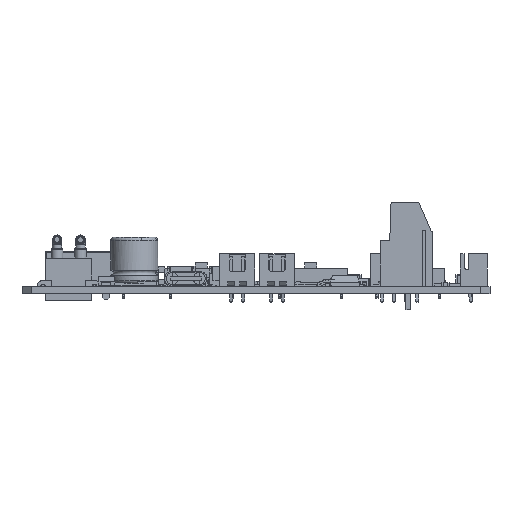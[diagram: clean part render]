
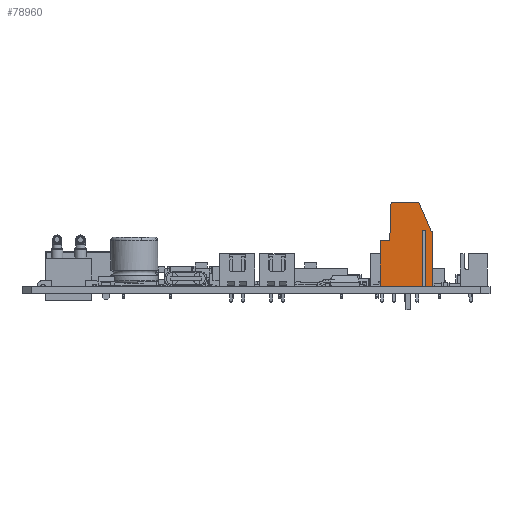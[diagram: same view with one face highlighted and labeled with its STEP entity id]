
A CAD part, front view. The second image highlights one B-rep face of the part: STEP entity #78960.
In plain terms, the highlighted planar face has unit normal (0, -1, 0) as drawn and (-1, 0, 0) by its records, which use the part's own axes.
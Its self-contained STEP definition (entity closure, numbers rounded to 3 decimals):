
#78792 = EDGE_CURVE('',#78793,#78795,#78797,.T.);
#78793 = VERTEX_POINT('',#78794);
#78794 = CARTESIAN_POINT('',(-2.54,-5.283,0.));
#78795 = VERTEX_POINT('',#78796);
#78796 = CARTESIAN_POINT('',(-2.54,-3.562,0.));
#78797 = LINE('',#78798,#78799);
#78798 = CARTESIAN_POINT('',(-2.54,-5.283,0.));
#78799 = VECTOR('',#78800,1.);
#78800 = DIRECTION('',(0.,1.,0.));
#78851 = VERTEX_POINT('',#78852);
#78852 = CARTESIAN_POINT('',(-2.54,5.917,0.));
#78858 = EDGE_CURVE('',#78859,#78851,#78861,.T.);
#78859 = VERTEX_POINT('',#78860);
#78860 = CARTESIAN_POINT('',(-2.54,-3.205,0.));
#78861 = LINE('',#78862,#78863);
#78862 = CARTESIAN_POINT('',(-2.54,-5.283,0.));
#78863 = VECTOR('',#78864,1.);
#78864 = DIRECTION('',(0.,1.,0.));
#78960 = ADVANCED_FACE('',(#78961),#79041,.F.);
#78961 = FACE_BOUND('',#78962,.F.);
#78962 = EDGE_LOOP('',(#78963,#78973,#78981,#78987,#78988,#78996,#79004,
    #79010,#79011,#79019,#79027,#79035));
#78963 = ORIENTED_EDGE('',*,*,#78964,.T.);
#78964 = EDGE_CURVE('',#78965,#78967,#78969,.T.);
#78965 = VERTEX_POINT('',#78966);
#78966 = CARTESIAN_POINT('',(-2.54,-2.283,18.));
#78967 = VERTEX_POINT('',#78968);
#78968 = CARTESIAN_POINT('',(-2.54,-4.983,11.8));
#78969 = LINE('',#78970,#78971);
#78970 = CARTESIAN_POINT('',(-2.54,-2.283,18.));
#78971 = VECTOR('',#78972,1.);
#78972 = DIRECTION('',(0.,-0.399,-0.917));
#78973 = ORIENTED_EDGE('',*,*,#78974,.T.);
#78974 = EDGE_CURVE('',#78967,#78975,#78977,.T.);
#78975 = VERTEX_POINT('',#78976);
#78976 = CARTESIAN_POINT('',(-2.54,-5.283,11.8));
#78977 = LINE('',#78978,#78979);
#78978 = CARTESIAN_POINT('',(-2.54,-4.983,11.8));
#78979 = VECTOR('',#78980,1.);
#78980 = DIRECTION('',(0.,-1.,0.));
#78981 = ORIENTED_EDGE('',*,*,#78982,.T.);
#78982 = EDGE_CURVE('',#78975,#78793,#78983,.T.);
#78983 = LINE('',#78984,#78985);
#78984 = CARTESIAN_POINT('',(-2.54,-5.283,18.));
#78985 = VECTOR('',#78986,1.);
#78986 = DIRECTION('',(0.,0.,-1.));
#78987 = ORIENTED_EDGE('',*,*,#78792,.T.);
#78988 = ORIENTED_EDGE('',*,*,#78989,.T.);
#78989 = EDGE_CURVE('',#78795,#78990,#78992,.T.);
#78990 = VERTEX_POINT('',#78991);
#78991 = CARTESIAN_POINT('',(-2.54,-3.562,12.));
#78992 = LINE('',#78993,#78994);
#78993 = CARTESIAN_POINT('',(-2.54,-3.562,0.));
#78994 = VECTOR('',#78995,1.);
#78995 = DIRECTION('',(0.,0.,1.));
#78996 = ORIENTED_EDGE('',*,*,#78997,.T.);
#78997 = EDGE_CURVE('',#78990,#78998,#79000,.T.);
#78998 = VERTEX_POINT('',#78999);
#78999 = CARTESIAN_POINT('',(-2.54,-3.205,12.));
#79000 = LINE('',#79001,#79002);
#79001 = CARTESIAN_POINT('',(-2.54,-3.562,12.));
#79002 = VECTOR('',#79003,1.);
#79003 = DIRECTION('',(0.,1.,0.));
#79004 = ORIENTED_EDGE('',*,*,#79005,.F.);
#79005 = EDGE_CURVE('',#78859,#78998,#79006,.T.);
#79006 = LINE('',#79007,#79008);
#79007 = CARTESIAN_POINT('',(-2.54,-3.205,0.));
#79008 = VECTOR('',#79009,1.);
#79009 = DIRECTION('',(0.,0.,1.));
#79010 = ORIENTED_EDGE('',*,*,#78858,.T.);
#79011 = ORIENTED_EDGE('',*,*,#79012,.T.);
#79012 = EDGE_CURVE('',#78851,#79013,#79015,.T.);
#79013 = VERTEX_POINT('',#79014);
#79014 = CARTESIAN_POINT('',(-2.54,5.917,9.8));
#79015 = LINE('',#79016,#79017);
#79016 = CARTESIAN_POINT('',(-2.54,5.917,0.));
#79017 = VECTOR('',#79018,1.);
#79018 = DIRECTION('',(0.,0.,1.));
#79019 = ORIENTED_EDGE('',*,*,#79020,.F.);
#79020 = EDGE_CURVE('',#79021,#79013,#79023,.T.);
#79021 = VERTEX_POINT('',#79022);
#79022 = CARTESIAN_POINT('',(-2.54,3.92,9.8));
#79023 = LINE('',#79024,#79025);
#79024 = CARTESIAN_POINT('',(-2.54,3.92,9.8));
#79025 = VECTOR('',#79026,1.);
#79026 = DIRECTION('',(0.,1.,0.));
#79027 = ORIENTED_EDGE('',*,*,#79028,.F.);
#79028 = EDGE_CURVE('',#79029,#79021,#79031,.T.);
#79029 = VERTEX_POINT('',#79030);
#79030 = CARTESIAN_POINT('',(-2.54,3.644,18.));
#79031 = LINE('',#79032,#79033);
#79032 = CARTESIAN_POINT('',(-2.54,3.644,18.));
#79033 = VECTOR('',#79034,1.);
#79034 = DIRECTION('',(0.,0.034,-0.999));
#79035 = ORIENTED_EDGE('',*,*,#79036,.T.);
#79036 = EDGE_CURVE('',#79029,#78965,#79037,.T.);
#79037 = LINE('',#79038,#79039);
#79038 = CARTESIAN_POINT('',(-2.54,5.917,18.));
#79039 = VECTOR('',#79040,1.);
#79040 = DIRECTION('',(0.,-1.,0.));
#79041 = PLANE('',#79042);
#79042 = AXIS2_PLACEMENT_3D('',#79043,#79044,#79045);
#79043 = CARTESIAN_POINT('',(-2.54,0.317,9.));
#79044 = DIRECTION('',(1.,0.,0.));
#79045 = DIRECTION('',(-0.,0.,1.));
